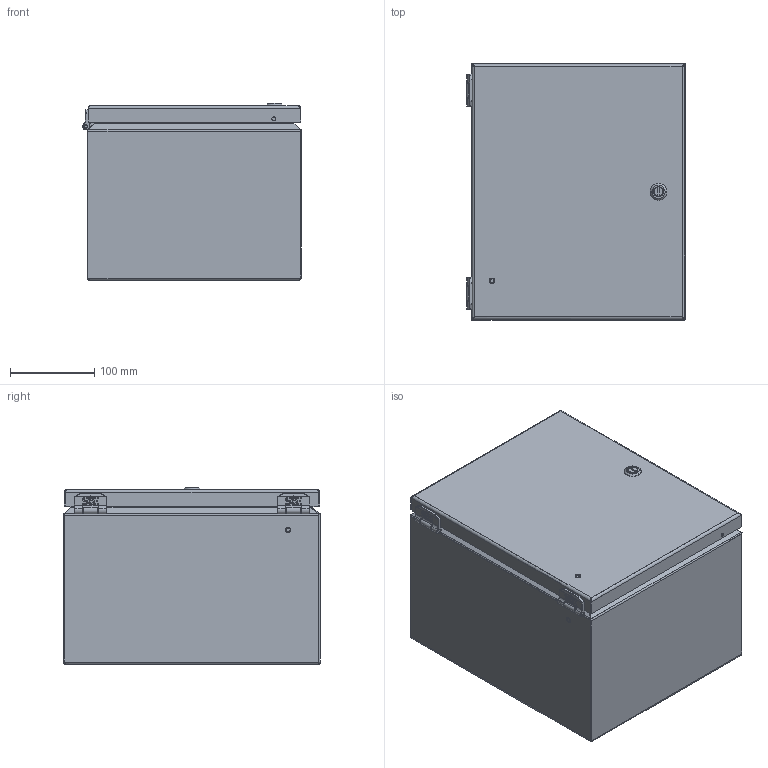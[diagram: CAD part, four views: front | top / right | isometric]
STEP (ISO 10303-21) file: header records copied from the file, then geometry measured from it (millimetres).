
FILE_DESCRIPTION((''),'2;1');
FILE_NAME('MODEL-058_ASM','2021-05-26T14:51:15',('johnh'),('SAGINAW CONTROL & ENGINEERING'),'CREO PARAMETRIC BY PTC INC, 2017260','CREO PARAMETRIC BY PTC INC, 2017260','');
FILE_SCHEMA(('AUTOMOTIVE_DESIGN { 1 0 10303 214 1 1 1 1 }'));
Length unit declared in the file: inch
Products named in the file (25): MODEL-058-BDY; MODEL-058-DR; 112643-BOX-LEAF; 112643-BOX-LEAF-STUD; 112643-BOX_ASM; 112643-DOOR-LEAF; 112643-DOOR-LEAF-STUD; 112643-DOOR_ASM; 112643-PIN; 112643_ASM; 113152; 100063; 112987_SHAFT; 112987_INSERT; 112984; 112987_SCREW; 112987_NUT; 112987_ASM; 100009; MODEL-058-GSKT; 120706; CH-ELJ_SUBPANEL; 102479; CH-ELJ_SUBPANEL-SUBASSEMBLY_ASM; MODEL-058_ASM
Assembly tree (35 placements, depth 4):
  MODEL-058_ASM
    MODEL-058-BDY
    MODEL-058-DR
    112643_ASM  x2
      112643-BOX_ASM
        112643-BOX-LEAF
        112643-BOX-LEAF-STUD
      112643-DOOR_ASM
        112643-DOOR-LEAF
        112643-DOOR-LEAF-STUD
      112643-PIN
    113152  x4
    100063  x2
    112987_ASM
      112987_SHAFT
      112987_INSERT
      112984
      112987_SCREW
      112987_NUT
    100009  x4
    MODEL-058-GSKT
    120706
    CH-ELJ_SUBPANEL-SUBASSEMBLY_ASM
      CH-ELJ_SUBPANEL
      102479  x4
Bounding box: 259.6 x 304.8 x 210.71 mm (x, y, z)
Volume: 790143.9 mm3; surface area: 980286.7 mm2
Topology: 34 solids, 36 shells, 2960 faces, 7563 edges, 4636 vertices
Faces by surface type: plane 1006, cylinder 862, bspline 830, cone 126, torus 116, sphere 20
Entity records: 101047 total; most frequent: CARTESIAN_POINT 54459, ORIENTED_EDGE 6990, DIRECTION 5960, EDGE_CURVE 3495, PRESENTATION_STYLE_ASSIGNMENT 3103, STYLED_ITEM 3103, CURVE_STYLE 2846, AXIS2_PLACEMENT_3D 2204
